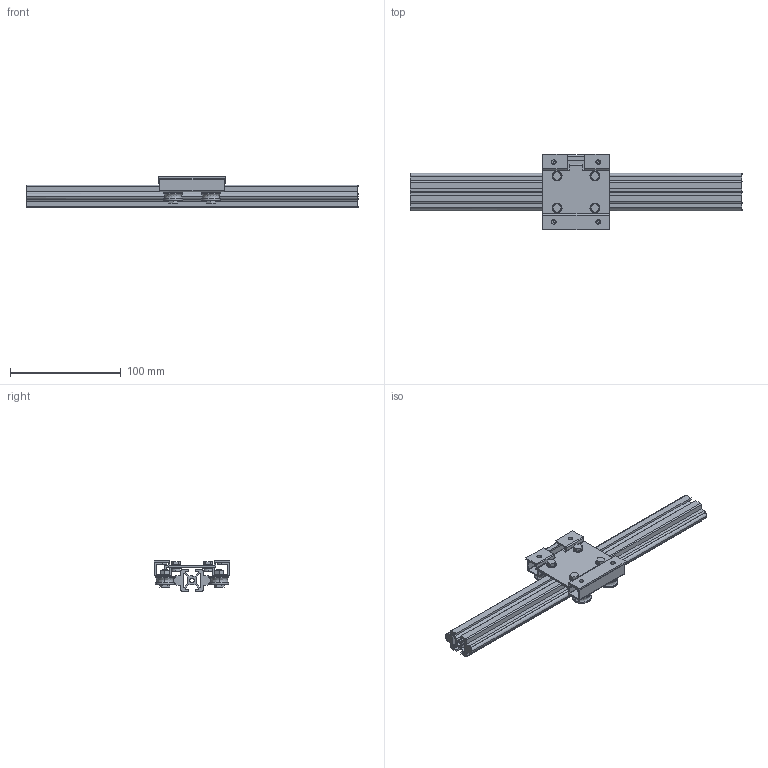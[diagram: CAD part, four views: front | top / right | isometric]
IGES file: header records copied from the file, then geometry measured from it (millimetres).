
Global section: file name: No Iges File Name specified; native system: AutoDesk Inventor R11.0; preprocessor: AutoDesk Inventor Iges Exporter R11.0; author: No Author specified; organization: No Organization specified; date: 20170802.092129; units: millimetre
Bounding box: 300 x 68 x 28 mm (x, y, z)
Surface area: 85659.1 mm2 (no closed solid volume)
Topology: 0 solids, 0 shells, 496 faces, 2894 edges, 2894 vertices
Faces by surface type: bspline 496
